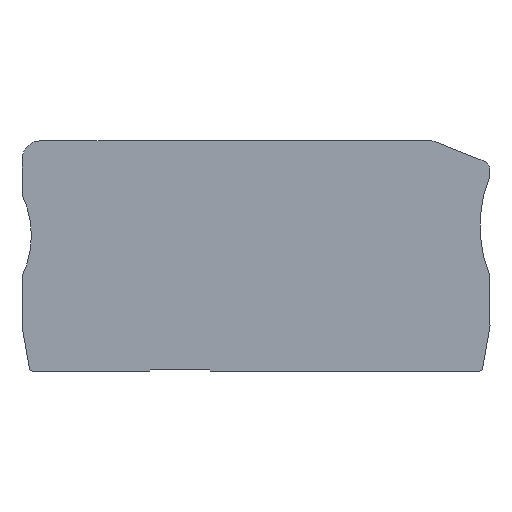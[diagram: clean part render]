
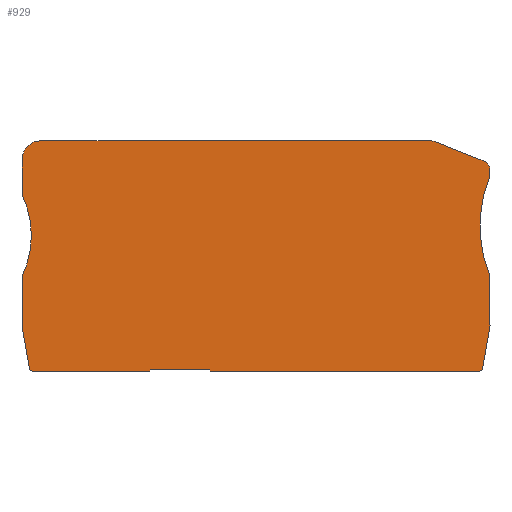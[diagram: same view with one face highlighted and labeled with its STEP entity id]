
A CAD part, front view. The second image highlights one B-rep face of the part: STEP entity #929.
In plain terms, the highlighted planar face has unit normal (0, -1, 0).
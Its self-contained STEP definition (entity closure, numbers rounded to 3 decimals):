
#35=CARTESIAN_POINT('',(-13.475,0.,-36.3));
#36=VERTEX_POINT('',#35);
#37=CARTESIAN_POINT('',(-13.56,0.,-36.5));
#38=VERTEX_POINT('',#37);
#39=CARTESIAN_POINT('',(-13.475,0.,-36.3));
#40=DIRECTION('',(-0.389,0.,-0.921));
#41=VECTOR('',#40,0.217);
#42=LINE('',#39,#41);
#43=EDGE_CURVE('',#36,#38,#42,.T.);
#75=CARTESIAN_POINT('',(-32.105,0.,-36.5));
#76=VERTEX_POINT('',#75);
#77=CARTESIAN_POINT('',(-13.56,0.,-36.5));
#78=DIRECTION('',(-1.,0.,0.));
#79=VECTOR('',#78,18.545);
#80=LINE('',#77,#79);
#81=EDGE_CURVE('',#38,#76,#80,.T.);
#106=CARTESIAN_POINT('',(-32.597,0.,-36.087));
#107=VERTEX_POINT('',#106);
#108=CARTESIAN_POINT('',(-32.105,0.,-36.));
#109=DIRECTION('',(0.,0.,-1.));
#110=DIRECTION('',(0.,1.,-0.));
#111=AXIS2_PLACEMENT_3D('',#108,#110,#109);
#112=CIRCLE('',#111,0.5);
#113=EDGE_CURVE('',#76,#107,#112,.T.);
#139=CARTESIAN_POINT('',(-33.773,0.,-29.417));
#140=VERTEX_POINT('',#139);
#141=CARTESIAN_POINT('',(-32.597,0.,-36.087));
#142=DIRECTION('',(-0.174,0.,0.985));
#143=VECTOR('',#142,6.773);
#144=LINE('',#141,#143);
#145=EDGE_CURVE('',#107,#140,#144,.T.);
#170=CARTESIAN_POINT('',(-33.781,0.,-29.33));
#171=VERTEX_POINT('',#170);
#172=CARTESIAN_POINT('',(-33.281,0.,-29.33));
#173=DIRECTION('',(-0.985,0.,-0.174));
#174=DIRECTION('',(0.,1.,-0.));
#175=AXIS2_PLACEMENT_3D('',#172,#174,#173);
#176=CIRCLE('',#175,0.5);
#177=EDGE_CURVE('',#140,#171,#176,.T.);
#203=CARTESIAN_POINT('',(-33.781,0.,-21.613));
#204=VERTEX_POINT('',#203);
#205=CARTESIAN_POINT('',(-33.781,0.,-29.33));
#206=DIRECTION('',(0.,0.,1.));
#207=VECTOR('',#206,7.717);
#208=LINE('',#205,#207);
#209=EDGE_CURVE('',#171,#204,#208,.T.);
#234=CARTESIAN_POINT('',(-33.733,0.,-21.4));
#235=VERTEX_POINT('',#234);
#236=CARTESIAN_POINT('',(-33.281,0.,-21.613));
#237=DIRECTION('',(-1.,0.,0.));
#238=DIRECTION('',(-0.,1.,0.));
#239=AXIS2_PLACEMENT_3D('',#236,#238,#237);
#240=CIRCLE('',#239,0.5);
#241=EDGE_CURVE('',#204,#235,#240,.T.);
#267=CARTESIAN_POINT('',(-33.733,0.,-8.6));
#268=VERTEX_POINT('',#267);
#269=CARTESIAN_POINT('',(-47.3,0.,-15.));
#270=DIRECTION('',(0.904,0.,-0.427));
#271=DIRECTION('',(-0.,-1.,0.));
#272=AXIS2_PLACEMENT_3D('',#269,#271,#270);
#273=CIRCLE('',#272,15.);
#274=EDGE_CURVE('',#235,#268,#273,.T.);
#300=CARTESIAN_POINT('',(-33.781,0.,-8.387));
#301=VERTEX_POINT('',#300);
#302=CARTESIAN_POINT('',(-33.281,0.,-8.387));
#303=DIRECTION('',(-0.904,0.,-0.427));
#304=DIRECTION('',(0.,1.,-0.));
#305=AXIS2_PLACEMENT_3D('',#302,#304,#303);
#306=CIRCLE('',#305,0.5);
#307=EDGE_CURVE('',#268,#301,#306,.T.);
#333=CARTESIAN_POINT('',(-33.781,0.,-3.));
#334=VERTEX_POINT('',#333);
#335=CARTESIAN_POINT('',(-33.781,0.,-8.387));
#336=DIRECTION('',(0.,0.,1.));
#337=VECTOR('',#336,5.387);
#338=LINE('',#335,#337);
#339=EDGE_CURVE('',#301,#334,#338,.T.);
#364=CARTESIAN_POINT('',(-30.781,0.,0.));
#365=VERTEX_POINT('',#364);
#366=CARTESIAN_POINT('',(-30.781,0.,-3.));
#367=DIRECTION('',(-1.,0.,0.));
#368=DIRECTION('',(-0.,1.,0.));
#369=AXIS2_PLACEMENT_3D('',#366,#368,#367);
#370=CIRCLE('',#369,3.);
#371=EDGE_CURVE('',#334,#365,#370,.T.);
#397=CARTESIAN_POINT('',(30.781,0.,0.));
#398=VERTEX_POINT('',#397);
#399=CARTESIAN_POINT('',(-30.781,0.,0.));
#400=DIRECTION('',(1.,0.,0.));
#401=VECTOR('',#400,61.562);
#402=LINE('',#399,#401);
#403=EDGE_CURVE('',#365,#398,#402,.T.);
#428=CARTESIAN_POINT('',(31.889,0.,-0.212));
#429=VERTEX_POINT('',#428);
#430=CARTESIAN_POINT('',(30.781,0.,-3.));
#431=DIRECTION('',(0.,0.,1.));
#432=DIRECTION('',(0.,1.,0.));
#433=AXIS2_PLACEMENT_3D('',#430,#432,#431);
#434=CIRCLE('',#433,3.);
#435=EDGE_CURVE('',#398,#429,#434,.T.);
#461=CARTESIAN_POINT('',(39.438,0.,-3.213));
#462=VERTEX_POINT('',#461);
#463=CARTESIAN_POINT('',(31.889,0.,-0.212));
#464=DIRECTION('',(0.929,0.,-0.369));
#465=VECTOR('',#464,8.123);
#466=LINE('',#463,#465);
#467=EDGE_CURVE('',#429,#462,#466,.T.);
#492=CARTESIAN_POINT('',(40.384,0.,-4.607));
#493=VERTEX_POINT('',#492);
#494=CARTESIAN_POINT('',(38.884,0.,-4.607));
#495=DIRECTION('',(0.369,0.,0.929));
#496=DIRECTION('',(0.,1.,0.));
#497=AXIS2_PLACEMENT_3D('',#494,#496,#495);
#498=CIRCLE('',#497,1.5);
#499=EDGE_CURVE('',#462,#493,#498,.T.);
#525=CARTESIAN_POINT('',(40.384,0.,-5.402));
#526=VERTEX_POINT('',#525);
#527=CARTESIAN_POINT('',(40.384,0.,-4.607));
#528=DIRECTION('',(0.,0.,-1.));
#529=VECTOR('',#528,0.795);
#530=LINE('',#527,#529);
#531=EDGE_CURVE('',#493,#526,#530,.T.);
#556=CARTESIAN_POINT('',(40.347,0.,-5.59));
#557=VERTEX_POINT('',#556);
#558=CARTESIAN_POINT('',(39.884,0.,-5.402));
#559=DIRECTION('',(1.,0.,0.));
#560=DIRECTION('',(0.,1.,0.));
#561=AXIS2_PLACEMENT_3D('',#558,#560,#559);
#562=CIRCLE('',#561,0.5);
#563=EDGE_CURVE('',#526,#557,#562,.T.);
#589=CARTESIAN_POINT('',(40.347,0.,-21.41));
#590=VERTEX_POINT('',#589);
#591=CARTESIAN_POINT('',(59.8,0.,-13.5));
#592=DIRECTION('',(-0.926,0.,0.377));
#593=DIRECTION('',(0.,-1.,0.));
#594=AXIS2_PLACEMENT_3D('',#591,#593,#592);
#595=CIRCLE('',#594,21.);
#596=EDGE_CURVE('',#557,#590,#595,.T.);
#622=CARTESIAN_POINT('',(40.384,0.,-21.598));
#623=VERTEX_POINT('',#622);
#624=CARTESIAN_POINT('',(39.884,0.,-21.598));
#625=DIRECTION('',(0.926,0.,0.377));
#626=DIRECTION('',(0.,1.,0.));
#627=AXIS2_PLACEMENT_3D('',#624,#626,#625);
#628=CIRCLE('',#627,0.5);
#629=EDGE_CURVE('',#590,#623,#628,.T.);
#655=CARTESIAN_POINT('',(40.384,0.,-29.33));
#656=VERTEX_POINT('',#655);
#657=CARTESIAN_POINT('',(40.384,0.,-21.598));
#658=DIRECTION('',(0.,0.,-1.));
#659=VECTOR('',#658,7.731);
#660=LINE('',#657,#659);
#661=EDGE_CURVE('',#623,#656,#660,.T.);
#686=CARTESIAN_POINT('',(40.376,0.,-29.417));
#687=VERTEX_POINT('',#686);
#688=CARTESIAN_POINT('',(39.884,0.,-29.33));
#689=DIRECTION('',(1.,0.,0.));
#690=DIRECTION('',(0.,1.,0.));
#691=AXIS2_PLACEMENT_3D('',#688,#690,#689);
#692=CIRCLE('',#691,0.5);
#693=EDGE_CURVE('',#656,#687,#692,.T.);
#719=CARTESIAN_POINT('',(39.2,0.,-36.087));
#720=VERTEX_POINT('',#719);
#721=CARTESIAN_POINT('',(40.376,0.,-29.417));
#722=DIRECTION('',(-0.174,0.,-0.985));
#723=VECTOR('',#722,6.773);
#724=LINE('',#721,#723);
#725=EDGE_CURVE('',#687,#720,#724,.T.);
#750=CARTESIAN_POINT('',(38.708,0.,-36.5));
#751=VERTEX_POINT('',#750);
#752=CARTESIAN_POINT('',(38.708,0.,-36.));
#753=DIRECTION('',(0.985,0.,-0.174));
#754=DIRECTION('',(0.,1.,0.));
#755=AXIS2_PLACEMENT_3D('',#752,#754,#753);
#756=CIRCLE('',#755,0.5);
#757=EDGE_CURVE('',#720,#751,#756,.T.);
#783=CARTESIAN_POINT('',(-3.952,0.,-36.5));
#784=VERTEX_POINT('',#783);
#785=CARTESIAN_POINT('',(38.708,0.,-36.5));
#786=DIRECTION('',(-1.,0.,0.));
#787=VECTOR('',#786,42.66);
#788=LINE('',#785,#787);
#789=EDGE_CURVE('',#751,#784,#788,.T.);
#814=CARTESIAN_POINT('',(-4.037,0.,-36.3));
#815=VERTEX_POINT('',#814);
#816=CARTESIAN_POINT('',(-3.952,0.,-36.5));
#817=DIRECTION('',(-0.389,0.,0.921));
#818=VECTOR('',#817,0.217);
#819=LINE('',#816,#818);
#820=EDGE_CURVE('',#784,#815,#819,.T.);
#845=CARTESIAN_POINT('',(-4.037,0.,-36.3));
#846=DIRECTION('',(-1.,0.,0.));
#847=VECTOR('',#846,9.439);
#848=LINE('',#845,#847);
#849=EDGE_CURVE('',#815,#36,#848,.T.);
#896=CARTESIAN_POINT('',(38.708,0.,-36.));
#897=DIRECTION('',(0.,0.,1.));
#898=DIRECTION('',(0.,-1.,0.));
#899=AXIS2_PLACEMENT_3D('',#896,#898,#897);
#900=PLANE('',#899);
#901=ORIENTED_EDGE('',*,*,#43,.F.);
#902=ORIENTED_EDGE('',*,*,#849,.F.);
#903=ORIENTED_EDGE('',*,*,#820,.F.);
#904=ORIENTED_EDGE('',*,*,#789,.F.);
#905=ORIENTED_EDGE('',*,*,#757,.F.);
#906=ORIENTED_EDGE('',*,*,#725,.F.);
#907=ORIENTED_EDGE('',*,*,#693,.F.);
#908=ORIENTED_EDGE('',*,*,#661,.F.);
#909=ORIENTED_EDGE('',*,*,#629,.F.);
#910=ORIENTED_EDGE('',*,*,#596,.F.);
#911=ORIENTED_EDGE('',*,*,#563,.F.);
#912=ORIENTED_EDGE('',*,*,#531,.F.);
#913=ORIENTED_EDGE('',*,*,#499,.F.);
#914=ORIENTED_EDGE('',*,*,#467,.F.);
#915=ORIENTED_EDGE('',*,*,#435,.F.);
#916=ORIENTED_EDGE('',*,*,#403,.F.);
#917=ORIENTED_EDGE('',*,*,#371,.F.);
#918=ORIENTED_EDGE('',*,*,#339,.F.);
#919=ORIENTED_EDGE('',*,*,#307,.F.);
#920=ORIENTED_EDGE('',*,*,#274,.F.);
#921=ORIENTED_EDGE('',*,*,#241,.F.);
#922=ORIENTED_EDGE('',*,*,#209,.F.);
#923=ORIENTED_EDGE('',*,*,#177,.F.);
#924=ORIENTED_EDGE('',*,*,#145,.F.);
#925=ORIENTED_EDGE('',*,*,#113,.F.);
#926=ORIENTED_EDGE('',*,*,#81,.F.);
#927=EDGE_LOOP('',(#901,#902,#903,#904,#905,#906,#907,#908,#909,#910,#911,#912,#913,#914,#915,#916,#917,#918,#919,#920,#921,#922,#923,#924,#925,#926));
#928=FACE_OUTER_BOUND('',#927,.T.);
#929=ADVANCED_FACE('',(#928),#900,.T.);
